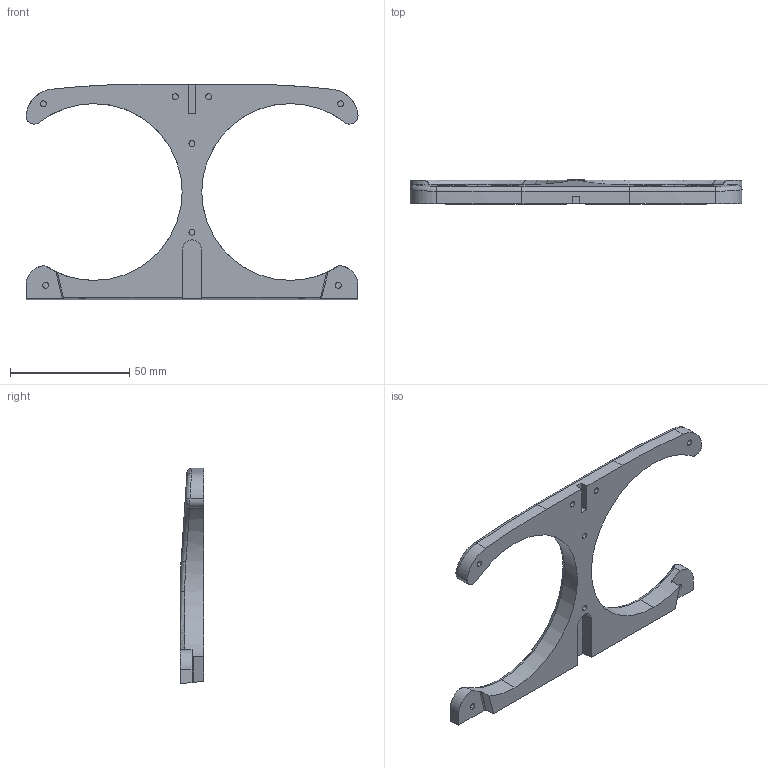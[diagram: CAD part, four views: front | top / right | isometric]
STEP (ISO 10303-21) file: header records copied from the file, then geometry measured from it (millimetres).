
FILE_DESCRIPTION (( 'STEP AP214' ), '1' );
FILE_NAME ('CupHolder mod.STEP', '2022-12-24T10:23:27', ( ' ' ), ( ' ' ), 'SwSTEP 2.0', 'SolidWorks 2003240', '' );
FILE_SCHEMA (( 'AUTOMOTIVE_DESIGN' ));
Length unit declared in the file: millimetre
Products named in the file (1): CupHolder mod
Bounding box: 139 x 10 x 90.16 mm (x, y, z)
Volume: 33531.9 mm3; surface area: 14260.2 mm2
Topology: 1 solids, 1 shells, 84 faces, 206 edges, 134 vertices
Faces by surface type: cylinder 40, plane 30, bspline 12, torus 2
Entity records: 9135 total; most frequent: CARTESIAN_POINT 7195, ORIENTED_EDGE 412, DIRECTION 388, EDGE_CURVE 206, AXIS2_PLACEMENT_3D 149, VERTEX_POINT 134, EDGE_LOOP 94, VECTOR 90
